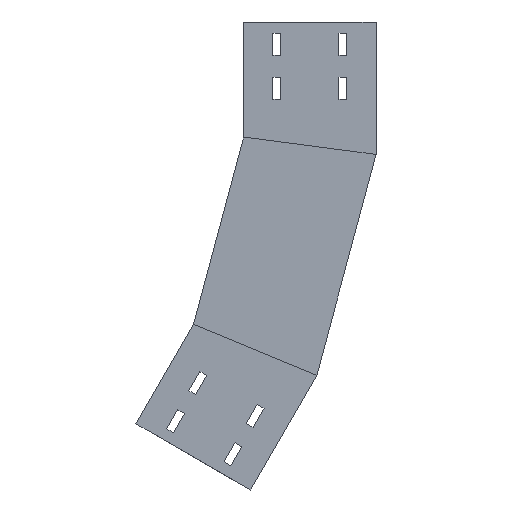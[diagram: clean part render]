
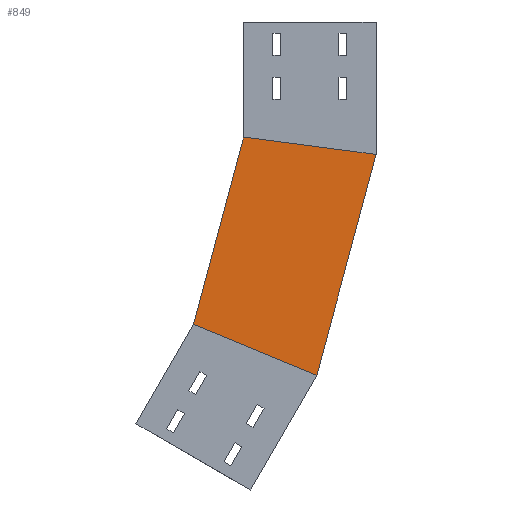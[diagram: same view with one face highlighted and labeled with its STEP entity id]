
A CAD part, left-side view. The second image highlights one B-rep face of the part: STEP entity #849.
In plain terms, the highlighted planar face has unit normal (-1, 0, 0) as drawn and (1, 0, 0) by its records, which use the part's own axes.
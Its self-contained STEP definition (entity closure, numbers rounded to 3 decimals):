
#11 = EDGE_LOOP ( 'NONE', ( #322, #1797, #928, #33 ) ) ;
#33 = ORIENTED_EDGE ( 'NONE', *, *, #1312, .F. ) ;
#83 = CARTESIAN_POINT ( 'NONE',  ( 0., 144.889, -111.177 ) ) ;
#128 = CARTESIAN_POINT ( 'NONE',  ( 0., 19.411, -147.444 ) ) ;
#170 = DIRECTION ( 'NONE',  ( 0., -0.991, -0.131 ) ) ;
#173 = FACE_OUTER_BOUND ( 'NONE', #11, .T. ) ;
#203 = CARTESIAN_POINT ( 'NONE',  ( 0., 0., -150. ) ) ;
#322 = ORIENTED_EDGE ( 'NONE', *, *, #974, .F. ) ;
#386 = LINE ( 'NONE', #83, #1935 ) ;
#459 = CARTESIAN_POINT ( 'NONE',  ( 0., 0., -150. ) ) ;
#484 = DIRECTION ( 'NONE',  ( 0., 0.259, -0.966 ) ) ;
#522 = VERTEX_POINT ( 'NONE', #1132 ) ;
#591 = AXIS2_PLACEMENT_3D ( 'NONE', #203, #1157, #1464 ) ;
#592 = VERTEX_POINT ( 'NONE', #703 ) ;
#703 = CARTESIAN_POINT ( 'NONE',  ( 0., 67.034, -400.175 ) ) ;
#735 = VERTEX_POINT ( 'NONE', #459 ) ;
#849 = ADVANCED_FACE ( 'NONE', ( #173 ), #1591, .F. ) ;
#853 = DIRECTION ( 'NONE',  ( 0., 0.259, -0.966 ) ) ;
#928 = ORIENTED_EDGE ( 'NONE', *, *, #1189, .T. ) ;
#974 = EDGE_CURVE ( 'NONE', #522, #1595, #386, .T. ) ;
#1112 = VECTOR ( 'NONE', #1382, 1000. ) ;
#1132 = CARTESIAN_POINT ( 'NONE',  ( 0., 150., -130.252 ) ) ;
#1157 = DIRECTION ( 'NONE',  ( -1., 0., 0. ) ) ;
#1189 = EDGE_CURVE ( 'NONE', #735, #592, #1548, .T. ) ;
#1251 = EDGE_CURVE ( 'NONE', #522, #735, #1542, .T. ) ;
#1312 = EDGE_CURVE ( 'NONE', #1595, #592, #1566, .T. ) ;
#1382 = DIRECTION ( 'NONE',  ( 0., -0.924, -0.383 ) ) ;
#1464 = DIRECTION ( 'NONE',  ( 0., 0., 1. ) ) ;
#1542 = LINE ( 'NONE', #128, #1607 ) ;
#1548 = LINE ( 'NONE', #1730, #1995 ) ;
#1566 = LINE ( 'NONE', #1879, #1112 ) ;
#1591 = PLANE ( 'NONE',  #591 ) ;
#1595 = VERTEX_POINT ( 'NONE', #1686 ) ;
#1607 = VECTOR ( 'NONE', #170, 1000. ) ;
#1686 = CARTESIAN_POINT ( 'NONE',  ( 0., 206.812, -342.277 ) ) ;
#1730 = CARTESIAN_POINT ( 'NONE',  ( 0., 0., -150. ) ) ;
#1797 = ORIENTED_EDGE ( 'NONE', *, *, #1251, .T. ) ;
#1879 = CARTESIAN_POINT ( 'NONE',  ( 0., 98.267, -387.238 ) ) ;
#1935 = VECTOR ( 'NONE', #853, 1000. ) ;
#1995 = VECTOR ( 'NONE', #484, 1000. ) ;
